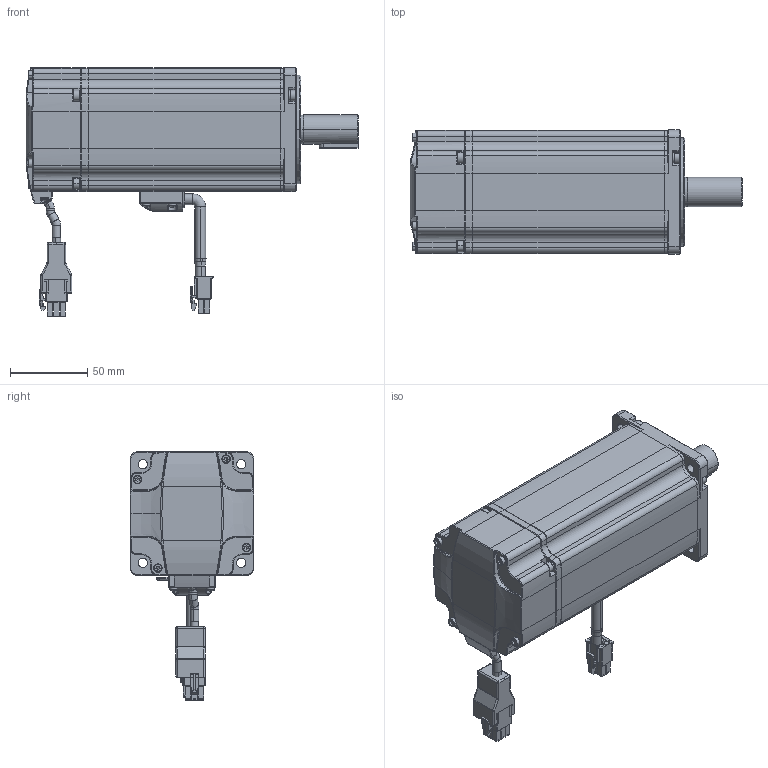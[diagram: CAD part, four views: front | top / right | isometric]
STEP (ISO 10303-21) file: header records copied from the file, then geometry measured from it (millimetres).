
FILE_DESCRIPTION (( 'STEP AP203' ), '1' );
FILE_NAME ('EM3A10A-100-A3-S（永磁交流伺服电机）.STEP', '2018-06-22T01:12:41', ( '' ), ( '' ), 'SwSTEP 2.0', 'SolidWorks 2016', '' );
FILE_SCHEMA (( 'CONFIG_CONTROL_DESIGN' ));
Length unit declared in the file: millimetre
Products named in the file (1): EM3A10A-100-A3-S（永磁交流伺服电机）
Bounding box: 214.5 x 80 x 160.62 mm (x, y, z)
Surface area: 86972.7 mm2 (no closed solid volume)
Topology: 0 solids, 61 shells, 1269 faces, 3740 edges, 2459 vertices
Faces by surface type: plane 485, cylinder 424, cone 133, torus 115, bspline 74, sphere 38
Entity records: 43641 total; most frequent: CARTESIAN_POINT 10402, DIRECTION 7191, ORIENTED_EDGE 6299, EDGE_CURVE 3708, AXIS2_PLACEMENT_3D 2599, VERTEX_POINT 2459, LINE 1993, VECTOR 1993
